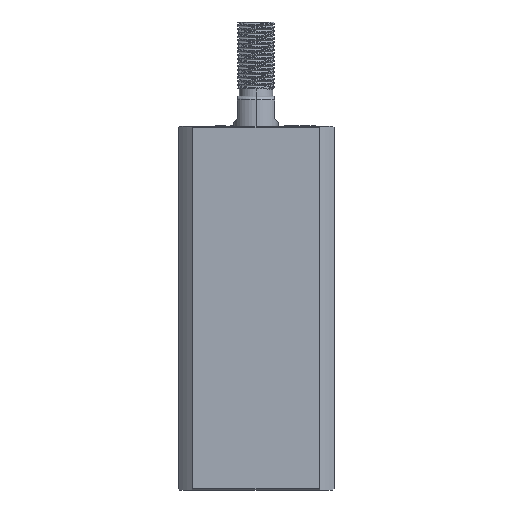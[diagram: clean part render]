
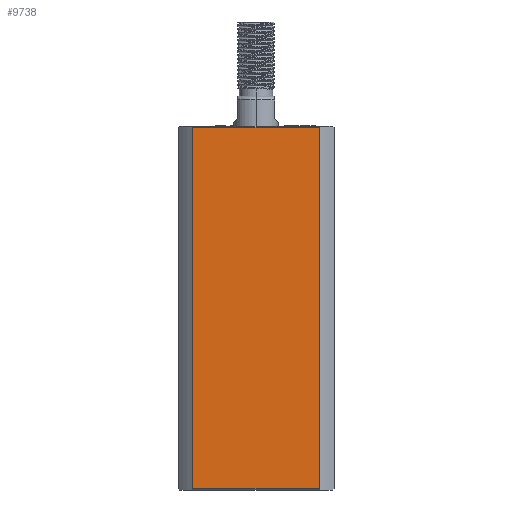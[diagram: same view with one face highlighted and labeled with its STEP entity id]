
A CAD part, left-side view. The second image highlights one B-rep face of the part: STEP entity #9738.
In plain terms, the highlighted planar face has unit normal (-1, 0, 0).
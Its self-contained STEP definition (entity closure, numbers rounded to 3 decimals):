
#9 = EDGE_CURVE ( 'NONE', #3261, #10244, #9581, .T. ) ;
#816 = DIRECTION ( 'NONE',  ( 0., 0., 1. ) ) ;
#1207 = VECTOR ( 'NONE', #816, 1000. ) ;
#1215 = VERTEX_POINT ( 'NONE', #1617 ) ;
#1217 = CARTESIAN_POINT ( 'NONE',  ( -21., 21., 98. ) ) ;
#1447 = VECTOR ( 'NONE', #14344, 1000. ) ;
#1617 = CARTESIAN_POINT ( 'NONE',  ( -21., -16.971, 0.3 ) ) ;
#1831 = LINE ( 'NONE', #9841, #1447 ) ;
#2186 = EDGE_CURVE ( 'NONE', #3261, #1215, #9763, .T. ) ;
#2481 = PLANE ( 'NONE',  #13608 ) ;
#2711 = FACE_OUTER_BOUND ( 'NONE', #7943, .T. ) ;
#2808 = CARTESIAN_POINT ( 'NONE',  ( -21., -16.971, -2. ) ) ;
#3159 = DIRECTION ( 'NONE',  ( 0., 0., -1. ) ) ;
#3261 = VERTEX_POINT ( 'NONE', #11988 ) ;
#3553 = VERTEX_POINT ( 'NONE', #4071 ) ;
#3727 = ORIENTED_EDGE ( 'NONE', *, *, #2186, .F. ) ;
#4071 = CARTESIAN_POINT ( 'NONE',  ( -21., 16.971, 0.3 ) ) ;
#5123 = EDGE_CURVE ( 'NONE', #3553, #1215, #1831, .T. ) ;
#6473 = VECTOR ( 'NONE', #9612, 1000. ) ;
#7218 = DIRECTION ( 'NONE',  ( 0., 1., 0. ) ) ;
#7375 = ORIENTED_EDGE ( 'NONE', *, *, #5123, .T. ) ;
#7943 = EDGE_LOOP ( 'NONE', ( #12661, #7375, #3727, #12398 ) ) ;
#9091 = EDGE_CURVE ( 'NONE', #3553, #10244, #10566, .T. ) ;
#9542 = CARTESIAN_POINT ( 'NONE',  ( -21., 21., 97.7 ) ) ;
#9581 = LINE ( 'NONE', #9542, #6473 ) ;
#9612 = DIRECTION ( 'NONE',  ( 0., 1., 0. ) ) ;
#9738 = ADVANCED_FACE ( 'NONE', ( #2711 ), #2481, .F. ) ;
#9763 = LINE ( 'NONE', #2808, #14301 ) ;
#9841 = CARTESIAN_POINT ( 'NONE',  ( -21., 21., 0.3 ) ) ;
#10244 = VERTEX_POINT ( 'NONE', #11063 ) ;
#10566 = LINE ( 'NONE', #14651, #1207 ) ;
#11063 = CARTESIAN_POINT ( 'NONE',  ( -21., 16.971, 97.7 ) ) ;
#11988 = CARTESIAN_POINT ( 'NONE',  ( -21., -16.971, 97.7 ) ) ;
#12398 = ORIENTED_EDGE ( 'NONE', *, *, #9, .T. ) ;
#12661 = ORIENTED_EDGE ( 'NONE', *, *, #9091, .F. ) ;
#13608 = AXIS2_PLACEMENT_3D ( 'NONE', #1217, #14000, #7218 ) ;
#14000 = DIRECTION ( 'NONE',  ( 1., 0., 0. ) ) ;
#14301 = VECTOR ( 'NONE', #3159, 1000. ) ;
#14344 = DIRECTION ( 'NONE',  ( 0., -1., 0. ) ) ;
#14651 = CARTESIAN_POINT ( 'NONE',  ( -21., 16.971, -2. ) ) ;
